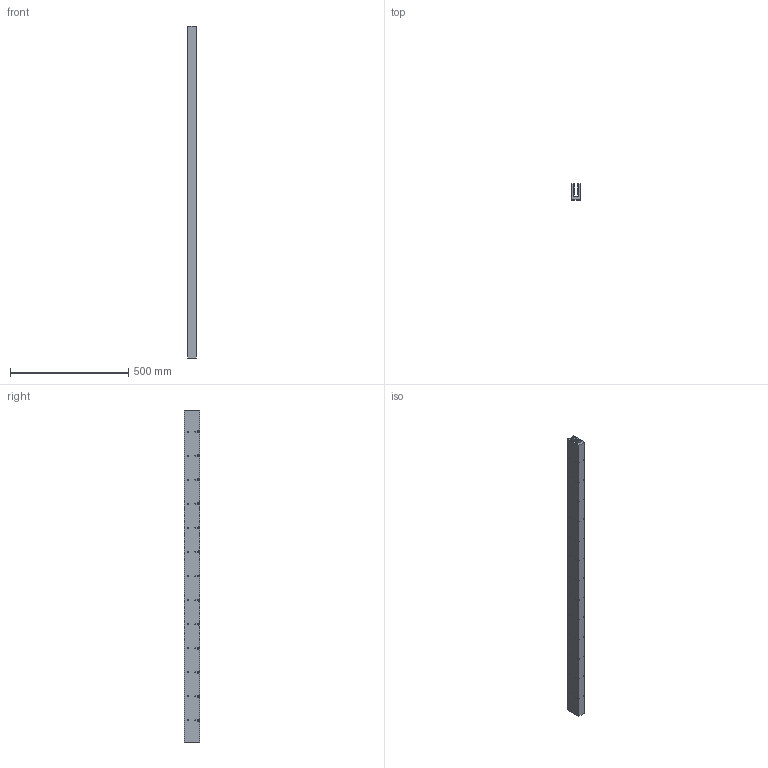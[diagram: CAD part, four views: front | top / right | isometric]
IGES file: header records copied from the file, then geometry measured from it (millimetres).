
Global section: file name: No Iges File Name specified; native system: Autodesk Inventor 2009; preprocessor: AutoDesk Inventor Iges Exporter R2009; author: je17857; date: 20091116.111726; units: inch
Bounding box: 34.29 x 67.31 x 1402.08 mm (x, y, z)
Volume: 2097538.9 mm3; surface area: 526356.7 mm2
Topology: 1 solids, 1 shells, 694 faces, 1674 edges, 1116 vertices
Faces by surface type: plane 486, bspline 208
